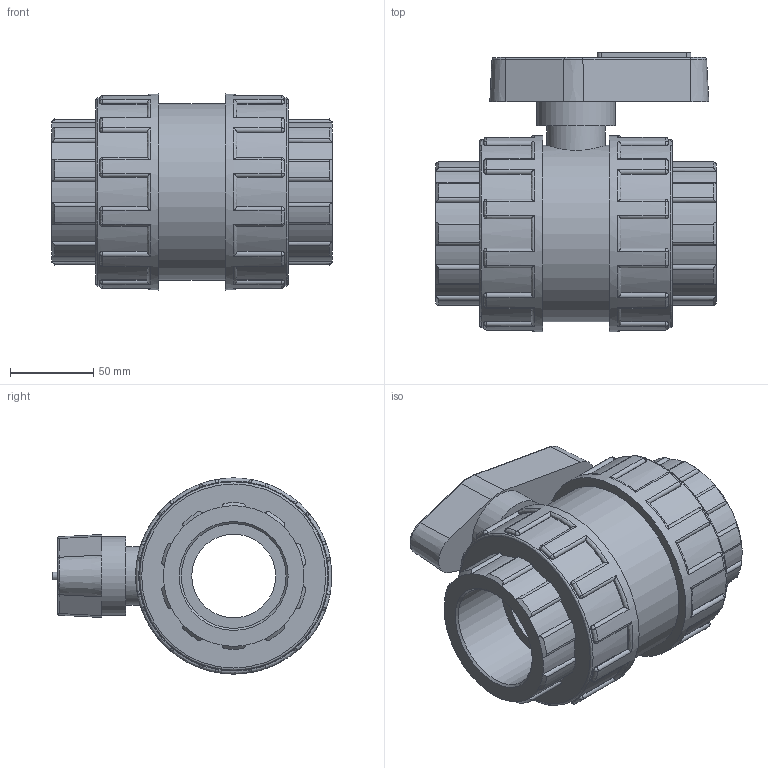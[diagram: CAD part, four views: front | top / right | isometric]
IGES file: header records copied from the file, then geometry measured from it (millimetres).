
Global section: file name: 11240063.ipt; native system: Autodesk Inventor 2015; preprocessor: unknown; author: KIM; date: 20171207.170252; units: millimetre
Bounding box: 169 x 168.18 x 118 mm (x, y, z)
Volume: 1193642.9 mm3; surface area: 127374.3 mm2
Topology: 1 solids, 1 shells, 434 faces, 1085 edges, 662 vertices
Faces by surface type: cylinder 189, plane 114, revolution 59, sphere 48, cone 24
Full cylindrical faces by diameter (mm): 35.4 x1, 47.2 x1, 106.2 x1, 113.28 x2, 118 x2
